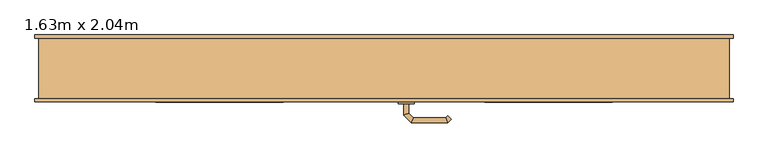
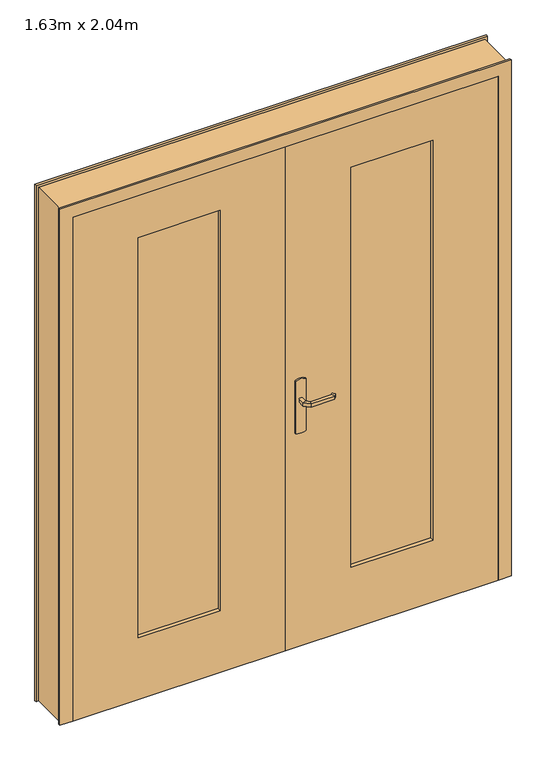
"""IFC4 building model written with IfcOpenShell, lengths in millimetres: door geometry, Double Vitrée  : 1.63m x 2.04m."""

from ifc_helpers import new_model, si_unit, point, frame, frame_2d, origin, place, context, project, spatial, polyline, circle_curve, ellipse_curve, trimmed, segment, composite_curve, outline, extrude, faceted_brep, source, transform, mapped, element, save
from ifc_brep_helpers import plane_surface, cylinder_surface, advanced_brep


def door_1_63m_x_2_04m_9200e95c(model_context):
    return source(origin(), model_context, "Body", "SolidModel", [
        advanced_brep(
        [(61.0, -38.0, 993.0), (61.0, -38.0, 1007.0), (49.0, -38.0, 1007.0), (49.0, -38.0, 993.0), (61.0, -15.5147955, 993.0), (61.0, -15.5147955, 1007.0), (49.0, -10.5442327, 1007.0), (49.0, -10.5442327, 993.0), (72.4852814, -4.0295141, 993.0), (72.4852814, -4.0295141, 1007.0), (67.5147186, 7.9704859, 1007.0), (67.5147186, 7.9704859, 993.0), (152.5605023, -4.0295141, 993.0), (152.5605023, -4.0295141, 1007.0), (157.531065, 7.9704859, 1007.0), (157.531065, 7.9704859, 993.0), (157.8742108, -9.3432226, 993.0), (166.3594922, -0.8579412, 993.0), (166.3594922, -0.8579412, 1007.0), (157.8742108, -9.3432226, 1007.0)],
        [
            (0, 1),
            (1, 2, circle_curve(frame((55.0, -38.0, 986.9542278), z_axis=(0.0, -1.0, 0.0), x_axis=(-1.0, 0.0, 0.0)), 20.9244589)),
            (2, 3),
            (3, 0, circle_curve(frame((55.0, -38.0, 1013.0457722), z_axis=(0.0, -1.0, 0.0), x_axis=(-1.0, 0.0, 0.0)), 20.9244589)),
            (0, 4),
            (4, 5),
            (5, 1),
            (5, 6, ellipse_curve(frame((55.0, -13.0295141, 986.9542278), z_axis=(-0.38268343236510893, -0.9238795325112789, 0.0), x_axis=(0.9238795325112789, -0.3826834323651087, 0.0)), 22.6484711, 20.9244589)),
            (6, 2),
            (6, 7),
            (7, 3),
            (7, 4, ellipse_curve(frame((55.0, -13.0295141, 1013.0457722), z_axis=(-0.38268343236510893, -0.9238795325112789, 0.0), x_axis=(0.9238795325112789, -0.3826834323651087, 0.0)), 22.6484711, 20.9244589)),
            (4, 8),
            (8, 9),
            (9, 5),
            (9, 10, ellipse_curve(frame((70.0, 1.9704859, 986.9542278), z_axis=(-0.9238795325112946, -0.38268343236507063, 0.0), x_axis=(0.3826834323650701, -0.9238795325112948, 0.0)), 22.6484711, 20.9244589)),
            (10, 6),
            (10, 11),
            (11, 7),
            (11, 8, ellipse_curve(frame((70.0, 1.9704859, 1013.0457722), z_axis=(-0.9238795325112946, -0.38268343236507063, 0.0), x_axis=(0.3826834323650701, -0.9238795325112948, 0.0)), 22.6484711, 20.9244589)),
            (8, 12),
            (12, 13),
            (13, 9),
            (13, 14, ellipse_curve(frame((155.0457837, 1.9704859, 986.9542278), z_axis=(-0.9238795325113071, 0.38268343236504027, 0.0), x_axis=(-0.38268343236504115, -0.9238795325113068, 0.0)), 22.6484711, 20.9244589)),
            (14, 10),
            (14, 15),
            (15, 11),
            (15, 12, ellipse_curve(frame((155.0457837, 1.9704859, 1013.0457722), z_axis=(-0.9238795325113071, 0.38268343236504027, 0.0), x_axis=(-0.38268343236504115, -0.9238795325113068, 0.0)), 22.6484711, 20.9244589)),
            (16, 17, circle_curve(frame((162.1168515, -5.1005819, 1013.0457722), z_axis=(0.7071067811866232, -0.7071067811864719, 0.0), x_axis=(0.7071067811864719, 0.7071067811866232, 0.0)), 20.9244589)),
            (17, 18),
            (18, 19, circle_curve(frame((162.1168515, -5.1005819, 986.9542278), z_axis=(0.7071067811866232, -0.7071067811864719, 0.0), x_axis=(0.7071067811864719, 0.7071067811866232, 0.0)), 20.9244589)),
            (19, 16),
            (12, 16),
            (19, 13),
            (18, 14),
            (17, 15),
        ],
        [
            plane_surface(frame((45.7804555, -38.0, 1000.0), z_axis=(0.0, -1.0, 0.0), x_axis=(0.0, 0.0, 1.0))),
            plane_surface(frame((61.0, -38.0, 993.0), z_axis=(1.0, 0.0, 0.0), x_axis=(0.0, 1.0, 0.0))),
            cylinder_surface(frame((55.0, -38.0, 986.9542278), z_axis=(0.0, -1.0, 0.0), x_axis=(-1.0, 0.0, 0.0)), 20.9244589),
            plane_surface(frame((49.0, -38.0, 1007.0), z_axis=(-1.0, 0.0, 0.0), x_axis=(0.0, 1.0, 0.0))),
            cylinder_surface(frame((55.0, -38.0, 1013.0457722), z_axis=(0.0, -1.0, 0.0), x_axis=(-1.0, 0.0, 0.0)), 20.9244589),
            plane_surface(frame((61.0, -15.5147955, 993.0), z_axis=(0.7071067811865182, -0.707106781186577, 0.0), x_axis=(0.707106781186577, 0.7071067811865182, 0.0))),
            cylinder_surface(frame((55.0, -13.0295141, 986.9542278), z_axis=(-0.7071067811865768, -0.7071067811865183, 0.0), x_axis=(-0.7071067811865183, 0.7071067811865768, 0.0)), 20.9244589),
            plane_surface(frame((49.0, -10.5442327, 1007.0), z_axis=(-0.7071067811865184, 0.7071067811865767, 0.0), x_axis=(0.7071067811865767, 0.7071067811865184, 0.0))),
            cylinder_surface(frame((55.0, -13.0295141, 1013.0457722), z_axis=(-0.7071067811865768, -0.7071067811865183, 0.0), x_axis=(-0.7071067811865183, 0.7071067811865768, 0.0)), 20.9244589),
            plane_surface(frame((72.4852814, -4.0295141, 993.0), z_axis=(0.0, -1.0, 0.0), x_axis=(1.0, 0.0, 0.0))),
            cylinder_surface(frame((70.0, 1.9704859, 986.9542278), z_axis=(-1.0, 0.0, 0.0), x_axis=(0.0, 1.0, 0.0)), 20.9244589),
            plane_surface(frame((67.5147186, 7.9704859, 1007.0), z_axis=(0.0, 1.0, 0.0), x_axis=(1.0, 0.0, 0.0))),
            cylinder_surface(frame((70.0, 1.9704859, 1013.0457722), z_axis=(-1.0, 0.0, 0.0), x_axis=(0.0, 1.0, 0.0)), 20.9244589),
            plane_surface(frame((162.1168515, -5.1005819, 990.7804555), z_axis=(0.7071067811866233, -0.7071067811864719, 0.0), x_axis=(0.7071067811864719, 0.7071067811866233, 0.0))),
            plane_surface(frame((152.5605023, -4.0295141, 993.0), z_axis=(-0.7071067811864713, -0.7071067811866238, 0.0), x_axis=(0.7071067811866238, -0.7071067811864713, 0.0))),
            cylinder_surface(frame((155.0457837, 1.9704859, 986.9542278), z_axis=(-0.7071067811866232, 0.7071067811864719, 0.0), x_axis=(0.7071067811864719, 0.7071067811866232, 0.0)), 20.9244589),
            plane_surface(frame((157.531065, 7.9704859, 1007.0), z_axis=(0.7071067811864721, 0.707106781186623, 0.0), x_axis=(0.707106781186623, -0.7071067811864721, 0.0))),
            cylinder_surface(frame((155.0457837, 1.9704859, 1013.0457722), z_axis=(-0.7071067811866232, 0.7071067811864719, 0.0), x_axis=(0.7071067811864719, 0.7071067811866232, 0.0)), 20.9244589),
        ],
        [
            (0, [[1, 2, 3, 4]]),
            (1, [[-1, 5, 6, 7]]),
            (2, [[-2, -7, 8, 9]]),
            (3, [[-3, -9, 10, 11]]),
            (4, [[-4, -11, 12, -5]]),
            (5, [[-6, 13, 14, 15]]),
            (6, [[-8, -15, 16, 17]]),
            (7, [[-10, -17, 18, 19]]),
            (8, [[-12, -19, 20, -13]]),
            (9, [[-14, 21, 22, 23]]),
            (10, [[-16, -23, 24, 25]]),
            (11, [[-18, -25, 26, 27]]),
            (12, [[-20, -27, 28, -21]]),
            (13, [[29, 30, 31, 32]]),
            (14, [[-22, 33, -32, 34]]),
            (15, [[-24, -34, -31, 35]]),
            (16, [[-26, -35, -30, 36]]),
            (17, [[-28, -36, -29, -33]]),
        ],
    ),
        advanced_brep(
        [(49.0, -88.0, 1007.0), (61.0, -88.0, 1007.0), (61.0, -88.0, 993.0), (49.0, -88.0, 993.0), (49.0, -115.6509507, 1007.0), (61.0, -110.680388, 1007.0), (61.0, -110.680388, 993.0), (49.0, -115.6509507, 993.0), (67.37721, -134.0281607, 1007.0), (72.3477727, -122.0281607, 1007.0), (72.3477727, -122.0281607, 993.0), (67.37721, -134.0281607, 993.0), (157.503922, -134.0281607, 1007.0), (152.5333592, -122.0281607, 1007.0), (152.5333592, -122.0281607, 993.0), (157.503922, -134.0281607, 993.0), (166.3323491, -125.1997336, 1007.0), (166.3323491, -125.1997336, 993.0), (157.8470677, -116.7144522, 993.0), (157.8470677, -116.7144522, 1007.0)],
        [
            (0, 1, circle_curve(frame((55.0, -88.0, 986.9542278), z_axis=(0.0, 1.0, 0.0), x_axis=(1.0, 0.0, 0.0)), 20.9244589)),
            (1, 2),
            (2, 3, circle_curve(frame((55.0, -88.0, 1013.0457722), z_axis=(0.0, 1.0, 0.0), x_axis=(1.0, 0.0, 0.0)), 20.9244589)),
            (3, 0),
            (0, 4),
            (4, 5, ellipse_curve(frame((55.0, -113.1656693, 986.9542278), z_axis=(-0.3826834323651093, 0.9238795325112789, 0.0), x_axis=(0.9238795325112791, 0.38268343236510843, 0.0)), 22.6484711, 20.9244589)),
            (5, 1),
            (5, 6),
            (6, 2),
            (6, 7, ellipse_curve(frame((55.0, -113.1656693, 1013.0457722), z_axis=(-0.3826834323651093, 0.9238795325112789, 0.0), x_axis=(0.9238795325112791, 0.38268343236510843, 0.0)), 22.6484711, 20.9244589)),
            (7, 3),
            (7, 4),
            (4, 8),
            (8, 9, ellipse_curve(frame((69.8624914, -128.0281607, 986.9542278), z_axis=(-0.9238795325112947, 0.38268343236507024, 0.0), x_axis=(0.3826834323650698, 0.9238795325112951, 0.0)), 22.6484711, 20.9244589)),
            (9, 5),
            (9, 10),
            (10, 6),
            (10, 11, ellipse_curve(frame((69.8624914, -128.0281607, 1013.0457722), z_axis=(-0.9238795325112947, 0.38268343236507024, 0.0), x_axis=(0.3826834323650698, 0.9238795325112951, 0.0)), 22.6484711, 20.9244589)),
            (11, 7),
            (11, 8),
            (8, 12),
            (12, 13, ellipse_curve(frame((155.0186406, -128.0281607, 986.9542278), z_axis=(-0.9238795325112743, -0.3826834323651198, 0.0), x_axis=(-0.38268343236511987, 0.9238795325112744, 0.0)), 22.6484711, 20.9244589)),
            (13, 9),
            (13, 14),
            (14, 10),
            (14, 15, ellipse_curve(frame((155.0186406, -128.0281607, 1013.0457722), z_axis=(-0.9238795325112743, -0.3826834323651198, 0.0), x_axis=(-0.38268343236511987, 0.9238795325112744, 0.0)), 22.6484711, 20.9244589)),
            (15, 11),
            (15, 12),
            (16, 17),
            (17, 18, circle_curve(frame((162.0897084, -120.9570929, 1013.0457722), z_axis=(0.7071067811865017, 0.7071067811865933, 0.0), x_axis=(-0.7071067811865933, 0.7071067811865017, 0.0)), 20.9244589)),
            (18, 19),
            (19, 16, circle_curve(frame((162.0897084, -120.9570929, 986.9542278), z_axis=(0.7071067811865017, 0.7071067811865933, 0.0), x_axis=(-0.7071067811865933, 0.7071067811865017, 0.0)), 20.9244589)),
            (12, 16),
            (19, 13),
            (18, 14),
            (17, 15),
        ],
        [
            plane_surface(frame((45.7804555, -88.0, 1000.0), z_axis=(0.0, 1.0, 0.0), x_axis=(0.0, 0.0, -1.0))),
            cylinder_surface(frame((55.0, -88.0, 986.9542278), z_axis=(0.0, 1.0, 0.0), x_axis=(1.0, 0.0, 0.0)), 20.9244589),
            plane_surface(frame((61.0, -88.0, 1007.0), z_axis=(1.0, 0.0, 0.0), x_axis=(0.0, -1.0, 0.0))),
            cylinder_surface(frame((55.0, -88.0, 1013.0457722), z_axis=(0.0, 1.0, 0.0), x_axis=(1.0, 0.0, 0.0)), 20.9244589),
            plane_surface(frame((49.0, -88.0, 993.0), z_axis=(-1.0, 0.0, 0.0), x_axis=(0.0, -1.0, 0.0))),
            cylinder_surface(frame((55.0, -113.1656693, 986.9542278), z_axis=(-0.7071067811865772, 0.7071067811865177, 0.0), x_axis=(0.7071067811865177, 0.7071067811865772, 0.0)), 20.9244589),
            plane_surface(frame((61.0, -110.680388, 1007.0), z_axis=(0.707106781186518, 0.7071067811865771, 0.0), x_axis=(0.7071067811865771, -0.707106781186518, 0.0))),
            cylinder_surface(frame((55.0, -113.1656693, 1013.0457722), z_axis=(-0.7071067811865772, 0.7071067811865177, 0.0), x_axis=(0.7071067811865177, 0.7071067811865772, 0.0)), 20.9244589),
            plane_surface(frame((49.0, -115.6509507, 993.0), z_axis=(-0.7071067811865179, -0.7071067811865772, 0.0), x_axis=(0.7071067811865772, -0.7071067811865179, 0.0))),
            cylinder_surface(frame((69.8624914, -128.0281607, 986.9542278), z_axis=(-1.0, 0.0, 0.0), x_axis=(0.0, 1.0, 0.0)), 20.9244589),
            plane_surface(frame((72.3477727, -122.0281607, 1007.0), z_axis=(0.0, 1.0, 0.0), x_axis=(1.0, 0.0, 0.0))),
            cylinder_surface(frame((69.8624914, -128.0281607, 1013.0457722), z_axis=(-1.0, 0.0, 0.0), x_axis=(0.0, 1.0, 0.0)), 20.9244589),
            plane_surface(frame((67.37721, -134.0281607, 993.0), z_axis=(0.0, -1.0, 0.0), x_axis=(1.0, 0.0, 0.0))),
            plane_surface(frame((162.0897084, -120.9570929, 1009.2195445), z_axis=(0.7071067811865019, 0.7071067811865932, 0.0), x_axis=(0.7071067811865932, -0.7071067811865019, 0.0))),
            cylinder_surface(frame((155.0186406, -128.0281607, 986.9542278), z_axis=(-0.7071067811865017, -0.7071067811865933, 0.0), x_axis=(-0.7071067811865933, 0.7071067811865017, 0.0)), 20.9244589),
            plane_surface(frame((152.5333592, -122.0281607, 1007.0), z_axis=(-0.7071067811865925, 0.7071067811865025, 0.0), x_axis=(0.7071067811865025, 0.7071067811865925, 0.0))),
            cylinder_surface(frame((155.0186406, -128.0281607, 1013.0457722), z_axis=(-0.7071067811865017, -0.7071067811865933, 0.0), x_axis=(-0.7071067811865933, 0.7071067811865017, 0.0)), 20.9244589),
            plane_surface(frame((157.503922, -134.0281607, 993.0), z_axis=(0.7071067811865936, -0.7071067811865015, 0.0), x_axis=(0.7071067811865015, 0.7071067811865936, 0.0))),
        ],
        [
            (0, [[1, 2, 3, 4]]),
            (1, [[-1, 5, 6, 7]]),
            (2, [[-2, -7, 8, 9]]),
            (3, [[-3, -9, 10, 11]]),
            (4, [[-4, -11, 12, -5]]),
            (5, [[-6, 13, 14, 15]]),
            (6, [[-8, -15, 16, 17]]),
            (7, [[-10, -17, 18, 19]]),
            (8, [[-12, -19, 20, -13]]),
            (9, [[-14, 21, 22, 23]]),
            (10, [[-16, -23, 24, 25]]),
            (11, [[-18, -25, 26, 27]]),
            (12, [[-20, -27, 28, -21]]),
            (13, [[29, 30, 31, 32]]),
            (14, [[-22, 33, -32, 34]]),
            (15, [[-24, -34, -31, 35]]),
            (16, [[-26, -35, -30, 36]]),
            (17, [[-28, -36, -29, -33]]),
        ],
    ),
        extrude(outline(composite_curve([segment(trimmed(circle_curve(frame_2d((1045.3589838, 55.0)), 40.0), [point((1080.0, 75.0))], [point((1080.0, 35.0))], False, "CARTESIAN"), True, "CONTINUOUS"), segment(polyline([(1080.0, 35.0), (870.0, 35.0)]), True, "CONTINUOUS"), segment(trimmed(circle_curve(frame_2d((904.6410162, 55.0)), 40.0), [point((870.0, 35.0))], [point((870.0, 75.0))], False, "CARTESIAN"), True, "CONTINUOUS"), segment(polyline([(870.0, 75.0), (1080.0, 75.0)]), True, "CONTINUOUS")], self_intersect=False)), frame((0.0, -43.0, 0.0), z_axis=(0.0, 1.0, 0.0), x_axis=(0.0, 0.0, 1.0)), (0.0, 0.0, 1.0), 5.0),
        extrude(outline(composite_curve([segment(trimmed(circle_curve(frame_2d((904.6410162, 55.0)), 40.0), [point((870.0, 35.0))], [point((870.0, 75.0))], False, "CARTESIAN"), True, "CONTINUOUS"), segment(polyline([(870.0, 75.0), (1080.0, 75.0)]), True, "CONTINUOUS"), segment(trimmed(circle_curve(frame_2d((1045.3589838, 55.0)), 40.0), [point((1080.0, 75.0))], [point((1080.0, 35.0))], False, "CARTESIAN"), True, "CONTINUOUS"), segment(polyline([(1080.0, 35.0), (870.0, 35.0)]), True, "CONTINUOUS")], self_intersect=False)), frame((0.0, -88.0, 0.0), z_axis=(0.0, 1.0, 0.0), x_axis=(0.0, 0.0, 1.0)), (0.0, 0.0, 1.0), 5.0),
        faceted_brep([(-855.0, -75.0, 0.0), (-855.0, 75.0, 0.0), (-865.0, 75.0, 0.0), (-865.0, 83.0, 0.0), (-800.0, 83.0, 0.0), (-800.0, -43.0, 0.0), (-815.0, -43.0, 0.0), (-815.0, -83.0, 0.0), (-865.0, -83.0, 0.0), (-865.0, -75.0, 0.0), (-855.0, -75.0, 2080.0), (-855.0, 75.0, 2080.0), (855.0, 75.0, 2080.0), (855.0, 75.0, 0.0), (865.0, 75.0, 0.0), (865.0, 75.0, 2090.0), (-865.0, 75.0, 2090.0), (-865.0, 83.0, 2090.0), (865.0, 83.0, 2090.0), (865.0, 83.0, 0.0), (800.0, 83.0, 0.0), (800.0, 83.0, 2025.0), (-800.0, 83.0, 2025.0), (-800.0, -43.0, 2025.0), (800.0, -43.0, 2025.0), (800.0, -43.0, 0.0), (815.0, -43.0, 0.0), (815.0, -43.0, 2040.0), (-815.0, -43.0, 2040.0), (-815.0, -83.0, 2040.0), (815.0, -83.0, 2040.0), (815.0, -83.0, 0.0), (865.0, -83.0, 0.0), (865.0, -83.0, 2090.0), (-865.0, -83.0, 2090.0), (-865.0, -75.0, 2090.0), (865.0, -75.0, 2090.0), (865.0, -75.0, 0.0), (855.0, -75.0, 0.0), (855.0, -75.0, 2080.0)], [[[0, 1, 2, 3, 4, 5, 6, 7, 8, 9]], [[1, 0, 10, 11]], [[2, 1, 11, 12, 13, 14, 15, 16]], [[3, 2, 16, 17]], [[4, 3, 17, 18, 19, 20, 21, 22]], [[5, 4, 22, 23]], [[6, 5, 23, 24, 25, 26, 27, 28]], [[7, 6, 28, 29]], [[8, 7, 29, 30, 31, 32, 33, 34]], [[9, 8, 34, 35]], [[0, 9, 35, 36, 37, 38, 39, 10]], [[12, 39, 38, 13]], [[38, 37, 32, 31, 26, 25, 20, 19, 14, 13]], [[18, 15, 14, 19]], [[24, 21, 20, 25]], [[30, 27, 26, 31]], [[36, 33, 32, 37]], [[11, 10, 39, 12]], [[17, 16, 15, 18]], [[23, 22, 21, 24]], [[29, 28, 27, 30]], [[35, 34, 33, 36]]]),
        extrude(outline(polyline([(0.0, 815.0), (2040.0, 815.0), (2040.0, 0.0), (0.0, 0.0), (0.0, 815.0)]), holes=[polyline([(1870.0, 565.0), (250.0, 565.0), (250.0, 250.0), (1870.0, 250.0), (1870.0, 565.0)])]), frame((0.0, -83.0, 0.0), z_axis=(0.0, 1.0, 0.0), x_axis=(0.0, 0.0, 1.0)), (0.0, 0.0, 1.0), 40.0),
        extrude(outline(polyline([(565.0, -68.0), (250.0, -68.0), (250.0, -58.0), (565.0, -58.0), (565.0, -68.0)])), frame((0.0, 0.0, 250.0), z_axis=(0.0, 0.0, 1.0), x_axis=(1.0, 0.0, 0.0)), (0.0, 0.0, 1.0), 1620.0),
        extrude(outline(polyline([(-250.0, -68.0), (-565.0, -68.0), (-565.0, -58.0), (-250.0, -58.0), (-250.0, -68.0)])), frame((0.0, 0.0, 250.0), z_axis=(0.0, 0.0, 1.0), x_axis=(1.0, 0.0, 0.0)), (0.0, 0.0, 1.0), 1620.0),
        extrude(outline(polyline([(2040.0, -815.0), (0.0, -815.0), (0.0, 0.0), (2040.0, 0.0), (2040.0, -815.0)]), holes=[polyline([(1870.0, -250.0), (250.0, -250.0), (250.0, -565.0), (1870.0, -565.0), (1870.0, -250.0)])]), frame((0.0, -83.0, 0.0), z_axis=(0.0, 1.0, 0.0), x_axis=(0.0, 0.0, 1.0)), (0.0, 0.0, 1.0), 40.0),
    ])


if __name__ == "__main__":
    model = new_model("IFC4")
    model_context = context("Model", 3, world=origin())
    ifc_project = project(units=[si_unit("LENGTHUNIT", "METRE", prefix="MILLI")], contexts=[model_context])
    site = spatial("IfcSite", under=ifc_project)
    building = spatial("IfcBuilding", under=site)
    placement = place(None, origin())
    door_1_63m_x_2_04m_shape = door_1_63m_x_2_04m_9200e95c(model_context)
    element("IfcDoor", 1, ObjectType="Double Vitrée  : 1.63m x 2.04m", at=placement, inside=building, context=model_context, shape_type="MappedRepresentation", body=[
        mapped(door_1_63m_x_2_04m_shape, transform((0.0, 0.0, 0.0), x_axis=(1.0, 0.0, 0.0), y_axis=(0.0, 1.0, 0.0), z_axis=(0.0, 0.0, 1.0))),
    ])
    save(model, "model.ifc")
